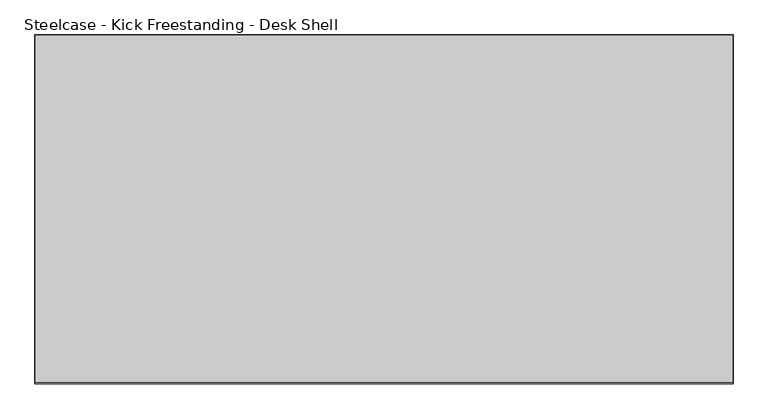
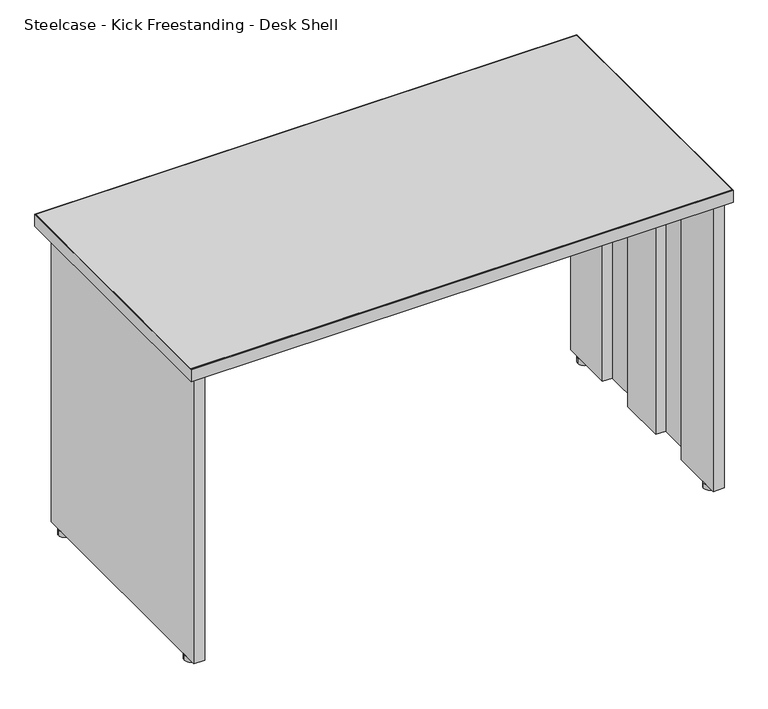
"""IFC4 building model written with IfcOpenShell, lengths in millimetres: furniture geometry, Steelcase - Kick Freestanding - Desk Shell : 24D x 48W."""

from ifc_helpers import new_model, si_unit, point, frame, frame_2d, origin, origin_with_axes, place, context, project, spatial, polyline, circle_curve, trimmed, segment, composite_curve, outline, extrude, source, transform, mapped, element, save


def steelcase_kick_freestanding_desk_shell_cf17ad3c(model_context):
    return source(origin(), model_context, "Body", "SweptSolid", [
        extrude(outline(composite_curve([segment(trimmed(circle_curve(frame_2d((665.1357759, -1004.2087877)), 13.97), [point((651.1657759, -1004.2087877))], [point((679.1057759, -1004.2087877))], False, "CARTESIAN"), True, "CONTINUOUS"), segment(trimmed(circle_curve(frame_2d((665.1357759, -1004.2087877)), 13.97), [point((679.1057759, -1004.2087877))], [point((651.1657759, -1004.2087877))], False, "CARTESIAN"), True, "CONTINUOUS")], self_intersect=False)), origin_with_axes(), (0.0, 0.0, 1.0), 12.446),
        extrude(outline(composite_curve([segment(trimmed(circle_curve(frame_2d((665.1357759, -1493.6441481)), 13.97), [point((651.1657759, -1493.6441481))], [point((679.1057759, -1493.6441481))], False, "CARTESIAN"), True, "CONTINUOUS"), segment(trimmed(circle_curve(frame_2d((665.1357759, -1493.6441481)), 13.97), [point((679.1057759, -1493.6441481))], [point((651.1657759, -1493.6441481))], False, "CARTESIAN"), True, "CONTINUOUS")], self_intersect=False)), origin_with_axes(), (0.0, 0.0, 1.0), 12.446),
        extrude(outline(polyline([(1821.8738425, -1096.0529604), (1821.8738425, -972.7867604), (1846.3594421, -972.7867604), (1846.3594421, -1528.538741), (1821.8738421, -1528.538741), (1821.8738421, -1404.2311348), (1844.3020425, -1404.2311348), (1844.3020425, -1304.5107682), (1821.8738421, -1304.5107682), (1821.8738421, -1195.7733647), (1844.3020425, -1195.7733647), (1844.3020425, -1096.0529604), (1821.8738425, -1096.0529604)])), frame((0.0, 0.0, 12.446), z_axis=(0.0, 0.0, 1.0), x_axis=(1.0, 0.0, 0.0)), (0.0, 0.0, 1.0), 682.498),
        extrude(outline(polyline([(677.0450425, -1096.0529604), (654.6168425, -1096.0529604), (654.6168425, -1195.7733647), (677.0450429, -1195.7733647), (677.0450429, -1304.5107682), (654.6168425, -1304.5107682), (654.6168425, -1404.2311348), (677.0450429, -1404.2311348), (677.0450429, -1528.538741), (652.5594429, -1528.538741), (652.5594429, -972.7867604), (677.0450425, -972.7867604), (677.0450425, -1096.0529604)])), frame((0.0, 0.0, 12.446), z_axis=(0.0, 0.0, 1.0), x_axis=(1.0, 0.0, 0.0)), (0.0, 0.0, 1.0), 682.498),
        extrude(outline(polyline([(1858.0688425, -932.6293604), (1858.0688425, -1538.2669215), (640.8500425, -1538.2669215), (640.8500425, -932.6293604), (1858.0688425, -932.6293604)])), frame((0.0, 0.0, 694.944), z_axis=(0.0, 0.0, 1.0), x_axis=(1.0, 0.0, 0.0)), (0.0, 0.0, 1.0), 28.956),
        extrude(outline(polyline([(1859.0594425, -931.6387604), (1859.0594425, -1541.2387604), (639.8594425, -1541.2387604), (639.8594425, -931.6387604), (1859.0594425, -931.6387604)]), holes=[polyline([(1858.0688425, -932.6293604), (640.8500425, -932.6293604), (640.8500425, -1538.2669215), (1858.0688425, -1538.2669215), (1858.0688425, -932.6293604)])]), frame((0.0, 0.0, 694.944), z_axis=(0.0, 0.0, 1.0), x_axis=(1.0, 0.0, 0.0)), (0.0, 0.0, 1.0), 28.956),
        extrude(outline(composite_curve([segment(trimmed(circle_curve(frame_2d((1833.7831091, -1493.6441481)), 13.97), [point((1819.8131091, -1493.6441481))], [point((1847.7531091, -1493.6441481))], False, "CARTESIAN"), True, "CONTINUOUS"), segment(trimmed(circle_curve(frame_2d((1833.7831091, -1493.6441481)), 13.97), [point((1847.7531091, -1493.6441481))], [point((1819.8131091, -1493.6441481))], False, "CARTESIAN"), True, "CONTINUOUS")], self_intersect=False)), origin_with_axes(), (0.0, 0.0, 1.0), 12.446),
        extrude(outline(composite_curve([segment(trimmed(circle_curve(frame_2d((1833.7831091, -1004.2087877)), 13.97), [point((1847.7531091, -1004.2087877))], [point((1819.8131091, -1004.2087877))], False, "CARTESIAN"), True, "CONTINUOUS"), segment(trimmed(circle_curve(frame_2d((1833.7831091, -1004.2087877)), 13.97), [point((1819.8131091, -1004.2087877))], [point((1847.7531091, -1004.2087877))], False, "CARTESIAN"), True, "CONTINUOUS")], self_intersect=False)), origin_with_axes(), (0.0, 0.0, 1.0), 12.446),
    ])


if __name__ == "__main__":
    model = new_model("IFC4")
    model_context = context("Model", 3, world=origin())
    ifc_project = project(units=[si_unit("LENGTHUNIT", "METRE", prefix="MILLI")], contexts=[model_context])
    site = spatial("IfcSite", under=ifc_project)
    building = spatial("IfcBuilding", under=site)
    placement = place(None, origin())
    steelcase_kick_freestanding_desk_shell_shape = steelcase_kick_freestanding_desk_shell_cf17ad3c(model_context)
    element("IfcFurniture", 1, ObjectType="Steelcase - Kick Freestanding - Desk Shell : 24D x 48W", at=placement, inside=building, context=model_context, shape_type="MappedRepresentation", body=[
        mapped(steelcase_kick_freestanding_desk_shell_shape, transform((0.0, 0.0, 0.0), x_axis=(1.0, 0.0, 0.0), y_axis=(0.0, 1.0, 0.0), z_axis=(0.0, 0.0, 1.0))),
    ])
    save(model, "model.ifc")
